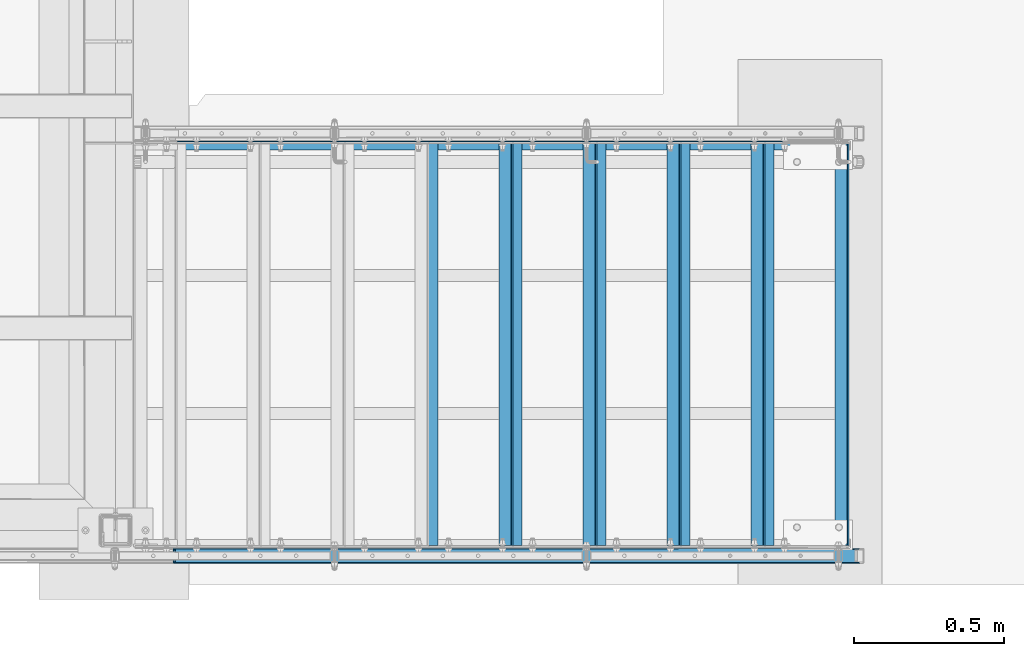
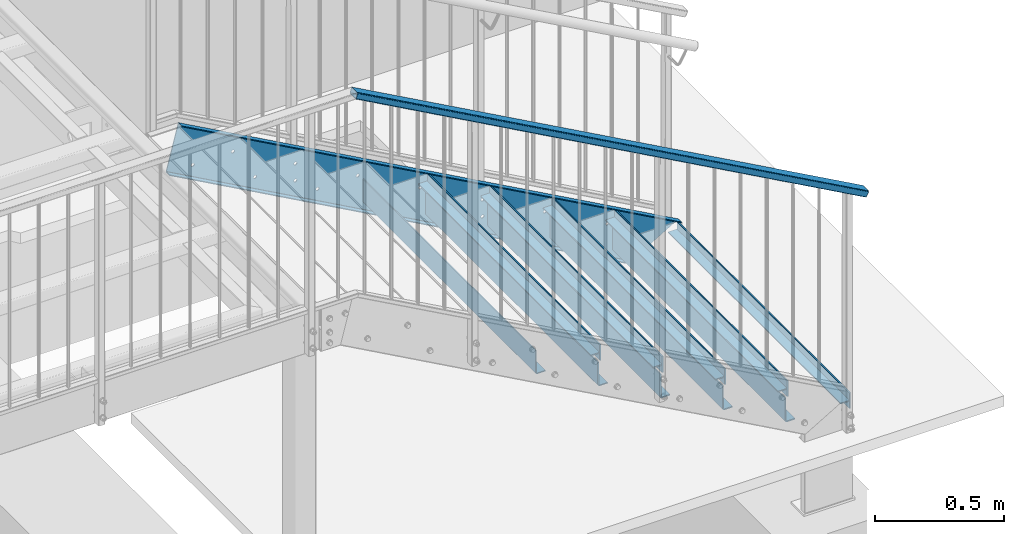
# One storey, part 13 of 116: 15 beams, 2 members, 36 openings.
"""IFC2X3 building model written with IfcOpenShell, lengths in millimetres."""

from ifc_helpers import new_model, entity, si_unit, converted_unit, point, frame, frame_2d, origin, origin_with_axes, origin_2d, origin_2d_with_axis, place, context, project, spatial, circle_curve, line_curve, trimmed, segment, composite_curve, rectangle, hollow_rectangle, circle, outline, extrude, clip, halfspace, material, element, save


model = new_model("IFC2X3")

# Units and contexts
model_context = context("Model", 3, precision=1e-09, world=origin_with_axes())
ifc_project = project(units=[si_unit("LENGTHUNIT", "METRE", prefix="MILLI"), si_unit("AREAUNIT", "SQUARE_METRE"), si_unit("VOLUMEUNIT", "CUBIC_METRE"), converted_unit("PLANEANGLEUNIT", "DEGREE", entity("IfcPlaneAngleMeasure", 0.01745329), si_unit("PLANEANGLEUNIT", "RADIAN"), dimensions=[0, 0, 0, 0, 0, 0, 0])], contexts=[model_context])

# Site, building, storey
site_placement = place(None, origin_with_axes())
site = spatial("IfcSite", under=ifc_project, at=site_placement, Name="Site", CompositionType="ELEMENT")
building_placement = place(site_placement, origin_with_axes())
building = spatial("IfcBuilding", under=site, at=building_placement, Name="Struktur 1", CompositionType="ELEMENT")
storey_placement = place(building_placement, origin_with_axes())
storey = spatial("IfcBuildingStorey", under=building, at=storey_placement, Name="Default Storey", CompositionType="ELEMENT", Elevation=0.0)

# Beam
ifc_material = material(Name="S235JR")
beam_1_placement = place(None, frame((60329.049134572, 9081.358883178, -1130.5), z_axis=(0.0, 1.0, 0.0), x_axis=(-1.0, 0.0, 0.0)))
element("IfcBeam", 1, at=beam_1_placement, inside=storey, material=ifc_material, Name="-", ObjectType="-", context=model_context, shape_type="SweptSolid", body=[
    extrude(rectangle(XDim=6.0, YDim=75.0, at=origin_2d()), origin(), (0.0, 0.0, 1.0), 1340.0),
])

# Member, openings
member_1_placement = place(None, frame((60785.926054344, 10415.358883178, -1459.553447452), z_axis=(0.874893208, 0.0, -0.484315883), x_axis=(0.0, -1.0, 0.0)))
member_1 = element("IfcMember", 2, at=member_1_placement, inside=storey, material=ifc_material, Name="-", ObjectType="-", context=model_context, shape_type="Clipping", body=[
    clip(clip(extrude(outline(composite_curve([segment(trimmed(line_curve((15.0, 108.5), (-1.0, 0.0), 25.0), [point((15.0, 108.5))], [point((-10.0, 108.5))], True, "CARTESIAN"), True, "CONTINUOUS"), segment(trimmed(circle_curve(frame_2d((-9.999999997, 103.499999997), x_axis=(1.0, 0.0)), 5.000000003), [point((-10.0, 108.5))], [point((-15.0, 103.5))], True, "CARTESIAN"), True, "CONTINUOUS"), segment(trimmed(line_curve((-15.0, 103.5), (0.0, -1.0), 207.0), [point((-15.0, 103.5))], [point((-15.0, -103.5))], True, "CARTESIAN"), True, "CONTINUOUS"), segment(trimmed(circle_curve(frame_2d((-9.999999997, -103.499999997), x_axis=(1.0, 0.0)), 5.000000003), [point((-15.0, -103.5))], [point((-10.0, -108.5))], True, "CARTESIAN"), True, "CONTINUOUS"), segment(trimmed(line_curve((-10.0, -108.5), (1.0, 0.0), 25.0), [point((-10.0, -108.5))], [point((15.0, -108.5))], True, "CARTESIAN"), True, "CONTINUOUS"), segment(trimmed(line_curve((15.0, -108.5), (0.0, 1.0), 4.0), [point((15.0, -108.5))], [point((15.0, -104.5))], True, "CARTESIAN"), True, "CONTINUOUS"), segment(trimmed(line_curve((15.0, -104.5), (-1.0, 0.0), 25.0), [point((15.0, -104.5))], [point((-10.0, -104.5))], True, "CARTESIAN"), True, "CONTINUOUS"), segment(trimmed(circle_curve(frame_2d((-9.999999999, -103.499999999), x_axis=(-1.0, 0.0)), 1.000000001), [point((-10.0, -104.5))], [point((-11.0, -103.5))], False, "CARTESIAN"), True, "CONTINUOUS"), segment(trimmed(line_curve((-11.0, -103.5), (0.0, 1.0), 207.0), [point((-11.0, -103.5))], [point((-11.0, 103.5))], True, "CARTESIAN"), True, "CONTINUOUS"), segment(trimmed(circle_curve(frame_2d((-9.999999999, 103.499999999), x_axis=(-1.0, 0.0)), 1.000000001), [point((-11.0, 103.5))], [point((-10.0, 104.5))], False, "CARTESIAN"), True, "CONTINUOUS"), segment(trimmed(line_curve((-10.0, 104.5), (1.0, 0.0), 25.0), [point((-10.0, 104.5))], [point((15.0, 104.5))], True, "CARTESIAN"), True, "CONTINUOUS"), segment(trimmed(line_curve((15.0, 104.5), (0.0, 1.0), 4.0), [point((15.0, 104.5))], [point((15.0, 108.5))], True, "CARTESIAN"), True, "CONTINUOUS")], self_intersect=False)), origin(), (0.0, 0.0, -1.0), 3042.828293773), halfspace(frame((10415.358883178, 14027.067776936, 833.812223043), z_axis=(0.0, -0.250106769, 0.968218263), x_axis=(-1.0, 0.0, 0.0)), True)), halfspace(frame((10415.358883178, 44335.592086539, -26449.557933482), z_axis=(0.0, -0.507781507, -0.861485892), x_axis=(1.0, 0.0, 0.0)), True)),
])
opening_1_placement = place(member_1_placement, frame((-10.5, 59.136882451, -739.789705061), z_axis=(1.0, 0.0, 0.0), x_axis=(0.0, 1.0, 0.0)))
element("IfcOpeningElement", 3, at=opening_1_placement, cuts=member_1, ObjectType="Opening", context=model_context, shape_type="SweptSolid", body=[
    extrude(circle(Radius=7.001, at=frame_2d((-3.390695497, 6.125127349), x_axis=(1.0, 0.0))), origin(), (0.0, 0.0, -1.0), 5.0),
])
opening_2_placement = place(member_1_placement, frame((-10.5, -28.039976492, -582.308927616), z_axis=(1.0, 0.0, 0.0), x_axis=(0.0, 1.0, 0.0)))
element("IfcOpeningElement", 4, at=opening_2_placement, cuts=member_1, ObjectType="Opening", context=model_context, shape_type="SweptSolid", body=[
    extrude(circle(Radius=7.001, at=frame_2d((-3.390695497, 6.125127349), x_axis=(1.0, 0.0))), origin(), (0.0, 0.0, -1.0), 5.0),
])
opening_3_placement = place(member_1_placement, frame((-10.5, 59.136882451, -1379.867825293), z_axis=(1.0, 0.0, 0.0), x_axis=(0.0, 1.0, 0.0)))
element("IfcOpeningElement", 5, at=opening_3_placement, cuts=member_1, ObjectType="Opening", context=model_context, shape_type="SweptSolid", body=[
    extrude(circle(Radius=7.001, at=frame_2d((-3.390695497, 6.125127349), x_axis=(1.0, 0.0))), origin(), (0.0, 0.0, -1.0), 5.0),
])
opening_4_placement = place(member_1_placement, frame((-10.5, -28.039976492, -1542.426107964), z_axis=(1.0, 0.0, 0.0), x_axis=(0.0, 1.0, 0.0)))
element("IfcOpeningElement", 6, at=opening_4_placement, cuts=member_1, ObjectType="Opening", context=model_context, shape_type="SweptSolid", body=[
    extrude(circle(Radius=7.001, at=frame_2d((-3.390695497, 6.125127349), x_axis=(1.0, 0.0))), origin(), (0.0, 0.0, -1.0), 5.0),
])
opening_5_placement = place(member_1_placement, frame((-10.5, -28.039976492, -902.347987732), z_axis=(1.0, 0.0, 0.0), x_axis=(0.0, 1.0, 0.0)))
element("IfcOpeningElement", 7, at=opening_5_placement, cuts=member_1, ObjectType="Opening", context=model_context, shape_type="SweptSolid", body=[
    extrude(circle(Radius=7.001, at=frame_2d((-3.390695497, 6.125127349), x_axis=(1.0, 0.0))), origin(), (0.0, 0.0, -1.0), 5.0),
])
opening_6_placement = place(member_1_placement, frame((-10.5, -28.039976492, -2502.543288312), z_axis=(1.0, 0.0, 0.0), x_axis=(0.0, 1.0, 0.0)))
element("IfcOpeningElement", 8, at=opening_6_placement, cuts=member_1, ObjectType="Opening", context=model_context, shape_type="SweptSolid", body=[
    extrude(circle(Radius=7.001, at=frame_2d((-3.390695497, 6.125127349), x_axis=(1.0, 0.0))), origin(), (0.0, 0.0, -1.0), 5.0),
])
opening_7_placement = place(member_1_placement, frame((-10.5, 59.136882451, -419.750644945), z_axis=(1.0, 0.0, 0.0), x_axis=(0.0, 1.0, 0.0)))
element("IfcOpeningElement", 9, at=opening_7_placement, cuts=member_1, ObjectType="Opening", context=model_context, shape_type="SweptSolid", body=[
    extrude(circle(Radius=7.001, at=frame_2d((-3.390695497, 6.125127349), x_axis=(1.0, 0.0))), origin(), (0.0, 0.0, -1.0), 5.0),
])
opening_8_placement = place(member_1_placement, frame((-10.5, 59.136882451, -1059.828765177), z_axis=(1.0, 0.0, 0.0), x_axis=(0.0, 1.0, 0.0)))
element("IfcOpeningElement", 10, at=opening_8_placement, cuts=member_1, ObjectType="Opening", context=model_context, shape_type="SweptSolid", body=[
    extrude(circle(Radius=7.001, at=frame_2d((-3.390695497, 6.125127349), x_axis=(1.0, 0.0))), origin(), (0.0, 0.0, -1.0), 5.0),
])
opening_9_placement = place(member_1_placement, frame((-10.5, 59.136882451, -2660.024065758), z_axis=(1.0, 0.0, 0.0), x_axis=(0.0, 1.0, 0.0)))
element("IfcOpeningElement", 11, at=opening_9_placement, cuts=member_1, ObjectType="Opening", context=model_context, shape_type="SweptSolid", body=[
    extrude(circle(Radius=7.001, at=frame_2d((-3.390695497, 6.125127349), x_axis=(1.0, 0.0))), origin(), (0.0, 0.0, -1.0), 5.0),
])
opening_10_placement = place(member_1_placement, frame((-10.5, 59.136882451, -2339.985005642), z_axis=(1.0, 0.0, 0.0), x_axis=(0.0, 1.0, 0.0)))
element("IfcOpeningElement", 12, at=opening_10_placement, cuts=member_1, ObjectType="Opening", context=model_context, shape_type="SweptSolid", body=[
    extrude(circle(Radius=7.001, at=frame_2d((-3.390695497, 6.125127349), x_axis=(1.0, 0.0))), origin(), (0.0, 0.0, -1.0), 5.0),
])
opening_11_placement = place(member_1_placement, frame((-10.5, 59.136882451, -2019.945945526), z_axis=(1.0, 0.0, 0.0), x_axis=(0.0, 1.0, 0.0)))
element("IfcOpeningElement", 13, at=opening_11_placement, cuts=member_1, ObjectType="Opening", context=model_context, shape_type="SweptSolid", body=[
    extrude(circle(Radius=7.001, at=frame_2d((-3.390695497, 6.125127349), x_axis=(1.0, 0.0))), origin(), (0.0, 0.0, -1.0), 5.0),
])
opening_12_placement = place(member_1_placement, frame((-10.5, -28.039976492, -1862.46516808), z_axis=(1.0, 0.0, 0.0), x_axis=(0.0, 1.0, 0.0)))
element("IfcOpeningElement", 14, at=opening_12_placement, cuts=member_1, ObjectType="Opening", context=model_context, shape_type="SweptSolid", body=[
    extrude(circle(Radius=7.001, at=frame_2d((-3.390695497, 6.125127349), x_axis=(1.0, 0.0))), origin(), (0.0, 0.0, -1.0), 5.0),
])
opening_13_placement = place(member_1_placement, frame((-10.5, 59.136882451, -1699.90688541), z_axis=(1.0, 0.0, 0.0), x_axis=(0.0, 1.0, 0.0)))
element("IfcOpeningElement", 15, at=opening_13_placement, cuts=member_1, ObjectType="Opening", context=model_context, shape_type="SweptSolid", body=[
    extrude(circle(Radius=7.001, at=frame_2d((-3.390695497, 6.125127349), x_axis=(1.0, 0.0))), origin(), (0.0, 0.0, -1.0), 5.0),
])
opening_14_placement = place(member_1_placement, frame((-15.5, -31.430671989, -2176.379100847), z_axis=(1.0, 0.0, 0.0), x_axis=(0.0, -0.484315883, 0.874893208)))
element("IfcOpeningElement", 16, at=opening_14_placement, cuts=member_1, ObjectType="Opening", context=model_context, shape_type="SweptSolid", body=[
    extrude(circle(Radius=7.001, at=origin_2d_with_axis()), origin(), (0.0, 0.0, 1.0), 5.0),
])
opening_15_placement = place(member_1_placement, frame((-15.5, -31.430671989, -1216.261920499), z_axis=(1.0, 0.0, 0.0), x_axis=(0.0, -0.484315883, 0.874893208)))
element("IfcOpeningElement", 17, at=opening_15_placement, cuts=member_1, ObjectType="Opening", context=model_context, shape_type="SweptSolid", body=[
    extrude(circle(Radius=7.001, at=origin_2d_with_axis()), origin(), (0.0, 0.0, 1.0), 5.0),
])
opening_16_placement = place(member_1_placement, frame((-15.5, 38.560784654, -1177.516649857), z_axis=(1.0, 0.0, 0.0), x_axis=(0.0, -0.484315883, 0.874893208)))
element("IfcOpeningElement", 18, at=opening_16_placement, cuts=member_1, ObjectType="Opening", context=model_context, shape_type="SweptSolid", body=[
    extrude(circle(Radius=7.001, at=origin_2d_with_axis()), origin(), (0.0, 0.0, 1.0), 5.0),
])
opening_17_placement = place(member_1_placement, frame((-15.5, 38.560784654, -2137.633830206), z_axis=(1.0, 0.0, 0.0), x_axis=(0.0, -0.484315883, 0.874893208)))
element("IfcOpeningElement", 19, at=opening_17_placement, cuts=member_1, ObjectType="Opening", context=model_context, shape_type="SweptSolid", body=[
    extrude(circle(Radius=7.001, at=origin_2d_with_axis()), origin(), (0.0, 0.0, 1.0), 5.0),
])

member_2_placement = place(None, frame((60652.935275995, 9047.359883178, -287.778349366), z_axis=(0.874893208, 0.0, -0.484315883), x_axis=(0.484315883, 0.0, 0.874893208)))
member_2 = element("IfcMember", 20, at=member_2_placement, inside=storey, material=ifc_material, Name="-", ObjectType="-", context=model_context, shape_type="Clipping", body=[
    clip(extrude(hollow_rectangle(XDim=30.0, YDim=50.0, WallThickness=3.0, InnerFilletRadius=3.0, OuterFilletRadius=6.0, at=origin_2d()), origin(), (0.0, 0.0, -1.0), 2647.780095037), halfspace(frame((-15051.702041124, 9047.359883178, 1270.435945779), z_axis=(0.250106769, 0.0, 0.968218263), x_axis=(0.0, -1.0, 0.0)), True)),
])
opening_18_placement = place(member_2_placement, frame((-15.499999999, 0.0, -87.433479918), z_axis=(1.0, 0.0, 0.0), x_axis=(0.0, 1.0, 0.0)))
element("IfcOpeningElement", 21, at=opening_18_placement, cuts=member_2, ObjectType="Opening", context=model_context, shape_type="SweptSolid", body=[
    extrude(circle(Radius=5.001, at=frame_2d((0.0, 9.0), x_axis=(1.0, 0.0))), origin(), (0.0, 0.0, 1.0), 4.0),
])
opening_19_placement = place(member_2_placement, frame((-15.499999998, 0.0, -1047.550660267), z_axis=(1.0, 0.0, 0.0), x_axis=(0.0, 1.0, 0.0)))
element("IfcOpeningElement", 22, at=opening_19_placement, cuts=member_2, ObjectType="Opening", context=model_context, shape_type="SweptSolid", body=[
    extrude(circle(Radius=5.001, at=frame_2d((0.0, 9.0), x_axis=(1.0, 0.0))), origin(), (0.0, 0.0, 1.0), 4.0),
])
opening_20_placement = place(member_2_placement, frame((-15.499999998, 0.0, -2007.668394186), z_axis=(1.0, 0.0, 0.0), x_axis=(0.0, 1.0, 0.0)))
element("IfcOpeningElement", 23, at=opening_20_placement, cuts=member_2, ObjectType="Opening", context=model_context, shape_type="SweptSolid", body=[
    extrude(circle(Radius=5.001, at=frame_2d((0.0, 9.0), x_axis=(1.0, 0.0))), origin(), (0.0, 0.0, 1.0), 4.0),
])
opening_21_placement = place(member_2_placement, frame((-3.141238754, 0.0, -370.642873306), z_axis=(0.874893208, 0.0, -0.484315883), x_axis=(0.0, 1.0, 0.0)))
element("IfcOpeningElement", 24, at=opening_21_placement, cuts=member_2, ObjectType="Opening", context=model_context, shape_type="SweptSolid", body=[
    extrude(outline(circle_curve(frame_2d((0.0, 6.051), x_axis=(1.0, 0.0)), 6.051)), origin(), (0.0, 0.0, -1.0), 289.983380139),
])
opening_22_placement = place(member_2_placement, frame((-3.141238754, 0.0, -236.422410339), z_axis=(0.874893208, 0.0, -0.484315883), x_axis=(0.0, 1.0, 0.0)))
element("IfcOpeningElement", 25, at=opening_22_placement, cuts=member_2, ObjectType="Opening", context=model_context, shape_type="SweptSolid", body=[
    extrude(outline(circle_curve(frame_2d((0.0, 6.051), x_axis=(1.0, 0.0)), 6.051)), origin(), (0.0, 0.0, -1.0), 224.978278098),
])
opening_23_placement = place(member_2_placement, frame((-3.141238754, 0.0, -504.863336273), z_axis=(0.874893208, 0.0, -0.484315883), x_axis=(0.0, 1.0, 0.0)))
element("IfcOpeningElement", 26, at=opening_23_placement, cuts=member_2, ObjectType="Opening", context=model_context, shape_type="SweptSolid", body=[
    extrude(outline(circle_curve(frame_2d((0.0, 6.051), x_axis=(1.0, 0.0)), 6.051)), origin(), (0.0, 0.0, -1.0), 354.98848218),
])
opening_24_placement = place(member_2_placement, frame((-3.141238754, 0.0, -639.08379924), z_axis=(0.874893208, 0.0, -0.484315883), x_axis=(0.0, 1.0, 0.0)))
element("IfcOpeningElement", 27, at=opening_24_placement, cuts=member_2, ObjectType="Opening", context=model_context, shape_type="SweptSolid", body=[
    extrude(outline(circle_curve(frame_2d((0.0, 6.051), x_axis=(1.0, 0.0)), 6.051)), origin(), (0.0, 0.0, -1.0), 419.993584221),
])
opening_25_placement = place(member_2_placement, frame((-3.141238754, 0.0, -773.304262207), z_axis=(0.874893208, 0.0, -0.484315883), x_axis=(0.0, 1.0, 0.0)))
element("IfcOpeningElement", 28, at=opening_25_placement, cuts=member_2, ObjectType="Opening", context=model_context, shape_type="SweptSolid", body=[
    extrude(outline(circle_curve(frame_2d((0.0, 6.051), x_axis=(1.0, 0.0)), 6.051)), origin(), (0.0, 0.0, -1.0), 484.998686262),
])
opening_26_placement = place(member_2_placement, frame((-3.141238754, 0.0, -907.524725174), z_axis=(0.874893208, 0.0, -0.484315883), x_axis=(0.0, 1.0, 0.0)))
element("IfcOpeningElement", 29, at=opening_26_placement, cuts=member_2, ObjectType="Opening", context=model_context, shape_type="SweptSolid", body=[
    extrude(outline(circle_curve(frame_2d((0.0, 6.051), x_axis=(1.0, 0.0)), 6.051)), origin(), (0.0, 0.0, -1.0), 550.003788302),
])
opening_27_placement = place(member_2_placement, frame((-3.141238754, 0.0, -1330.760053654), z_axis=(0.874893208, 0.0, -0.484315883), x_axis=(0.0, 1.0, 0.0)))
element("IfcOpeningElement", 30, at=opening_27_placement, cuts=member_2, ObjectType="Opening", context=model_context, shape_type="SweptSolid", body=[
    extrude(outline(circle_curve(frame_2d((0.0, 6.051), x_axis=(1.0, 0.0)), 6.051)), origin(), (0.0, 0.0, -1.0), 754.983380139),
])
opening_28_placement = place(member_2_placement, frame((-3.141238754, 0.0, -1196.539590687), z_axis=(0.874893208, 0.0, -0.484315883), x_axis=(0.0, 1.0, 0.0)))
element("IfcOpeningElement", 31, at=opening_28_placement, cuts=member_2, ObjectType="Opening", context=model_context, shape_type="SweptSolid", body=[
    extrude(outline(circle_curve(frame_2d((0.0, 6.051), x_axis=(1.0, 0.0)), 6.051)), origin(), (0.0, 0.0, -1.0), 689.978278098),
])
opening_29_placement = place(member_2_placement, frame((-3.141238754, 0.0, -1464.980516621), z_axis=(0.874893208, 0.0, -0.484315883), x_axis=(0.0, 1.0, 0.0)))
element("IfcOpeningElement", 32, at=opening_29_placement, cuts=member_2, ObjectType="Opening", context=model_context, shape_type="SweptSolid", body=[
    extrude(outline(circle_curve(frame_2d((0.0, 6.051), x_axis=(1.0, 0.0)), 6.051)), origin(), (0.0, 0.0, -1.0), 819.98848218),
])
opening_30_placement = place(member_2_placement, frame((-3.141238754, 0.0, -1599.200979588), z_axis=(0.874893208, 0.0, -0.484315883), x_axis=(0.0, 1.0, 0.0)))
element("IfcOpeningElement", 33, at=opening_30_placement, cuts=member_2, ObjectType="Opening", context=model_context, shape_type="SweptSolid", body=[
    extrude(outline(circle_curve(frame_2d((0.0, 6.051), x_axis=(1.0, 0.0)), 6.051)), origin(), (0.0, 0.0, -1.0), 884.993584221),
])
opening_31_placement = place(member_2_placement, frame((-3.141238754, 0.0, -1733.421442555), z_axis=(0.874893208, 0.0, -0.484315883), x_axis=(0.0, 1.0, 0.0)))
element("IfcOpeningElement", 34, at=opening_31_placement, cuts=member_2, ObjectType="Opening", context=model_context, shape_type="SweptSolid", body=[
    extrude(outline(circle_curve(frame_2d((0.0, 6.051), x_axis=(1.0, 0.0)), 6.051)), origin(), (0.0, 0.0, -1.0), 949.998686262),
])
opening_32_placement = place(member_2_placement, frame((-3.141238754, 0.0, -1867.641905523), z_axis=(0.874893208, 0.0, -0.484315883), x_axis=(0.0, 1.0, 0.0)))
element("IfcOpeningElement", 35, at=opening_32_placement, cuts=member_2, ObjectType="Opening", context=model_context, shape_type="SweptSolid", body=[
    extrude(outline(circle_curve(frame_2d((0.0, 6.051), x_axis=(1.0, 0.0)), 6.051)), origin(), (0.0, 0.0, -1.0), 1015.003788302),
])
opening_33_placement = place(member_2_placement, frame((-3.141238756, 0.0, -2158.452908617), z_axis=(0.874893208, 0.0, -0.484315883), x_axis=(0.0, 1.0, 0.0)))
element("IfcOpeningElement", 36, at=opening_33_placement, cuts=member_2, ObjectType="Opening", context=model_context, shape_type="SweptSolid", body=[
    extrude(outline(circle_curve(frame_2d((0.0, 6.051), x_axis=(1.0, 0.0)), 6.051)), origin(), (0.0, 0.0, -1.0), 1155.848176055),
])
opening_34_placement = place(member_2_placement, frame((-3.141238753, 0.0, -2294.469509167), z_axis=(0.874893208, 0.0, -0.484315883), x_axis=(0.0, 1.0, 0.0)))
element("IfcOpeningElement", 37, at=opening_34_placement, cuts=member_2, ObjectType="Opening", context=model_context, shape_type="SweptSolid", body=[
    extrude(outline(circle_curve(frame_2d((0.0, 6.051), x_axis=(1.0, 0.0)), 6.051)), origin(), (0.0, 0.0, -1.0), 1221.723176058),
])
opening_35_placement = place(member_2_placement, frame((-3.141238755, 0.0, -2430.486109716), z_axis=(0.874893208, 0.0, -0.484315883), x_axis=(0.0, 1.0, 0.0)))
element("IfcOpeningElement", 38, at=opening_35_placement, cuts=member_2, ObjectType="Opening", context=model_context, shape_type="SweptSolid", body=[
    extrude(outline(circle_curve(frame_2d((0.0, 6.051), x_axis=(1.0, 0.0)), 6.051)), origin(), (0.0, 0.0, -1.0), 1287.598176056),
])
opening_36_placement = place(member_2_placement, frame((-3.141238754, 0.0, -2566.503263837), z_axis=(0.874893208, 0.0, -0.484315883), x_axis=(0.0, 1.0, 0.0)))
element("IfcOpeningElement", 39, at=opening_36_placement, cuts=member_2, ObjectType="Opening", context=model_context, shape_type="SweptSolid", body=[
    extrude(outline(circle_curve(frame_2d((0.0, 6.051), x_axis=(1.0, 0.0)), 6.051)), origin(), (0.0, 0.0, -1.0), 1353.473444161),
])

# Beams
beam_2_placement = place(None, frame((60306.049134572, 9081.358883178, -1130.5), z_axis=(0.0, 1.0, 0.0), x_axis=(0.0, 0.0, 1.0)))
element("IfcBeam", 40, at=beam_2_placement, inside=storey, material=ifc_material, Name="-", ObjectType="-", context=model_context, shape_type="SweptSolid", body=[
    extrude(rectangle(XDim=5.0, YDim=40.0, at=origin_2d()), origin(), (0.0, 0.0, 1.0), 1340.0),
])
beam_3_placement = place(None, frame((60037.049134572, 9081.358883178, -1133.0), z_axis=(0.0, -1.0, 0.0), x_axis=(1.0, 0.0, 0.0)))
element("IfcBeam", 41, at=beam_3_placement, inside=storey, material=ifc_material, Name="-", ObjectType="-", context=model_context, shape_type="SweptSolid", body=[
    extrude(outline(composite_curve([segment(trimmed(line_curve((0.0, 115.0), (0.0, -1.0), 105.0), [point((0.0, 115.0))], [point((0.0, 10.0))], True, "CARTESIAN"), True, "CONTINUOUS"), segment(trimmed(circle_curve(frame_2d((10.0, 10.0), x_axis=(1.0, 0.0)), 10.0), [point((0.0, 10.0))], [point((10.0, 0.0))], True, "CARTESIAN"), True, "CONTINUOUS"), segment(trimmed(line_curve((10.0, 0.0), (1.0, 0.0), 35.0), [point((10.0, 0.0))], [point((45.0, 0.0))], True, "CARTESIAN"), True, "CONTINUOUS"), segment(trimmed(line_curve((45.0, 0.0), (0.0, 1.0), 5.0), [point((45.0, 0.0))], [point((45.0, 5.0))], True, "CARTESIAN"), True, "CONTINUOUS"), segment(trimmed(line_curve((45.0, 5.0), (-1.0, 0.0), 35.0), [point((45.0, 5.0))], [point((10.0, 5.0))], True, "CARTESIAN"), True, "CONTINUOUS"), segment(trimmed(circle_curve(frame_2d((10.0, 10.0), x_axis=(-1.0, 0.0)), 5.0), [point((10.0, 5.0))], [point((5.0, 10.0))], False, "CARTESIAN"), True, "CONTINUOUS"), segment(trimmed(line_curve((5.0, 10.0), (0.0, 1.0), 105.0), [point((5.0, 10.0))], [point((5.0, 115.0))], True, "CARTESIAN"), True, "CONTINUOUS"), segment(trimmed(line_curve((5.0, 115.0), (-1.0, 0.0), 5.0), [point((5.0, 115.0))], [point((0.0, 115.0))], True, "CARTESIAN"), True, "CONTINUOUS")], self_intersect=False)), origin(), (0.0, 0.0, -1.0), 1340.0),
])
beam_4_placement = place(None, frame((60586.049134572, 9081.358883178, -1285.5), z_axis=(0.0, 1.0, 0.0), x_axis=(0.0, 0.0, 1.0)))
element("IfcBeam", 42, at=beam_4_placement, inside=storey, material=ifc_material, Name="-", ObjectType="-", context=model_context, shape_type="SweptSolid", body=[
    extrude(rectangle(XDim=5.0, YDim=40.0, at=origin_2d()), origin(), (0.0, 0.0, 1.0), 1340.0),
])
beam_5_placement = place(None, frame((60609.049134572, 9081.358883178, -1285.5), z_axis=(0.0, 1.0, 0.0), x_axis=(-1.0, 0.0, 0.0)))
element("IfcBeam", 43, at=beam_5_placement, inside=storey, material=ifc_material, Name="-", ObjectType="-", context=model_context, shape_type="SweptSolid", body=[
    extrude(rectangle(XDim=6.0, YDim=75.0, at=origin_2d()), origin(), (0.0, 0.0, 1.0), 1340.0),
])
beam_6_placement = place(None, frame((60317.049134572, 9081.358883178, -1288.0), z_axis=(0.0, -1.0, 0.0), x_axis=(1.0, 0.0, 0.0)))
element("IfcBeam", 44, at=beam_6_placement, inside=storey, material=ifc_material, Name="-", ObjectType="-", context=model_context, shape_type="SweptSolid", body=[
    extrude(outline(composite_curve([segment(trimmed(line_curve((0.0, 115.0), (0.0, -1.0), 105.0), [point((0.0, 115.0))], [point((0.0, 10.0))], True, "CARTESIAN"), True, "CONTINUOUS"), segment(trimmed(circle_curve(frame_2d((10.0, 10.0), x_axis=(1.0, 0.0)), 10.0), [point((0.0, 10.0))], [point((10.0, 0.0))], True, "CARTESIAN"), True, "CONTINUOUS"), segment(trimmed(line_curve((10.0, 0.0), (1.0, 0.0), 35.0), [point((10.0, 0.0))], [point((45.0, 0.0))], True, "CARTESIAN"), True, "CONTINUOUS"), segment(trimmed(line_curve((45.0, 0.0), (0.0, 1.0), 5.0), [point((45.0, 0.0))], [point((45.0, 5.0))], True, "CARTESIAN"), True, "CONTINUOUS"), segment(trimmed(line_curve((45.0, 5.0), (-1.0, 0.0), 35.0), [point((45.0, 5.0))], [point((10.0, 5.0))], True, "CARTESIAN"), True, "CONTINUOUS"), segment(trimmed(circle_curve(frame_2d((10.0, 10.0), x_axis=(-1.0, 0.0)), 5.0), [point((10.0, 5.0))], [point((5.0, 10.0))], False, "CARTESIAN"), True, "CONTINUOUS"), segment(trimmed(line_curve((5.0, 10.0), (0.0, 1.0), 105.0), [point((5.0, 10.0))], [point((5.0, 115.0))], True, "CARTESIAN"), True, "CONTINUOUS"), segment(trimmed(line_curve((5.0, 115.0), (-1.0, 0.0), 5.0), [point((5.0, 115.0))], [point((0.0, 115.0))], True, "CARTESIAN"), True, "CONTINUOUS")], self_intersect=False)), origin(), (0.0, 0.0, -1.0), 1340.0),
])
beam_7_placement = place(None, frame((60026.049134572, 9081.358883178, -975.5), z_axis=(0.0, 1.0, 0.0), x_axis=(0.0, 0.0, 1.0)))
element("IfcBeam", 45, at=beam_7_placement, inside=storey, material=ifc_material, Name="-", ObjectType="-", context=model_context, shape_type="SweptSolid", body=[
    extrude(rectangle(XDim=5.0, YDim=40.0, at=origin_2d()), origin(), (0.0, 0.0, 1.0), 1340.0),
])
beam_8_placement = place(None, frame((60049.049134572, 9081.358883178, -975.5), z_axis=(0.0, 1.0, 0.0), x_axis=(-1.0, 0.0, 0.0)))
element("IfcBeam", 46, at=beam_8_placement, inside=storey, material=ifc_material, Name="-", ObjectType="-", context=model_context, shape_type="SweptSolid", body=[
    extrude(rectangle(XDim=6.0, YDim=75.0, at=origin_2d()), origin(), (0.0, 0.0, 1.0), 1340.0),
])
beam_9_placement = place(None, frame((59757.049134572, 9081.358883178, -978.0), z_axis=(0.0, -1.0, 0.0), x_axis=(1.0, 0.0, 0.0)))
element("IfcBeam", 47, at=beam_9_placement, inside=storey, material=ifc_material, Name="-", ObjectType="-", context=model_context, shape_type="SweptSolid", body=[
    extrude(outline(composite_curve([segment(trimmed(line_curve((0.0, 115.0), (0.0, -1.0), 105.0), [point((0.0, 115.0))], [point((0.0, 10.0))], True, "CARTESIAN"), True, "CONTINUOUS"), segment(trimmed(circle_curve(frame_2d((10.0, 10.0), x_axis=(1.0, 0.0)), 10.0), [point((0.0, 10.0))], [point((10.0, 0.0))], True, "CARTESIAN"), True, "CONTINUOUS"), segment(trimmed(line_curve((10.0, 0.0), (1.0, 0.0), 35.0), [point((10.0, 0.0))], [point((45.0, 0.0))], True, "CARTESIAN"), True, "CONTINUOUS"), segment(trimmed(line_curve((45.0, 0.0), (0.0, 1.0), 5.0), [point((45.0, 0.0))], [point((45.0, 5.0))], True, "CARTESIAN"), True, "CONTINUOUS"), segment(trimmed(line_curve((45.0, 5.0), (-1.0, 0.0), 35.0), [point((45.0, 5.0))], [point((10.0, 5.0))], True, "CARTESIAN"), True, "CONTINUOUS"), segment(trimmed(circle_curve(frame_2d((10.0, 10.0), x_axis=(-1.0, 0.0)), 5.0), [point((10.0, 5.0))], [point((5.0, 10.0))], False, "CARTESIAN"), True, "CONTINUOUS"), segment(trimmed(line_curve((5.0, 10.0), (0.0, 1.0), 105.0), [point((5.0, 10.0))], [point((5.0, 115.0))], True, "CARTESIAN"), True, "CONTINUOUS"), segment(trimmed(line_curve((5.0, 115.0), (-1.0, 0.0), 5.0), [point((5.0, 115.0))], [point((0.0, 115.0))], True, "CARTESIAN"), True, "CONTINUOUS")], self_intersect=False)), origin(), (0.0, 0.0, -1.0), 1340.0),
])
beam_10_placement = place(None, frame((59746.049134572, 9081.358883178, -820.5), z_axis=(0.0, 1.0, 0.0), x_axis=(0.0, 0.0, 1.0)))
element("IfcBeam", 48, at=beam_10_placement, inside=storey, material=ifc_material, Name="-", ObjectType="-", context=model_context, shape_type="SweptSolid", body=[
    extrude(rectangle(XDim=5.0, YDim=40.0, at=origin_2d()), origin(), (0.0, 0.0, 1.0), 1340.0),
])
beam_11_placement = place(None, frame((59769.049134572, 9081.358883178, -820.5), z_axis=(0.0, 1.0, 0.0), x_axis=(-1.0, 0.0, 0.0)))
element("IfcBeam", 49, at=beam_11_placement, inside=storey, material=ifc_material, Name="-", ObjectType="-", context=model_context, shape_type="SweptSolid", body=[
    extrude(rectangle(XDim=6.0, YDim=75.0, at=origin_2d()), origin(), (0.0, 0.0, 1.0), 1340.0),
])
beam_12_placement = place(None, frame((59477.049134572, 9081.358883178, -823.0), z_axis=(0.0, -1.0, 0.0), x_axis=(1.0, 0.0, 0.0)))
element("IfcBeam", 50, at=beam_12_placement, inside=storey, material=ifc_material, Name="-", ObjectType="-", context=model_context, shape_type="SweptSolid", body=[
    extrude(outline(composite_curve([segment(trimmed(line_curve((0.0, 115.0), (0.0, -1.0), 105.0), [point((0.0, 115.0))], [point((0.0, 10.0))], True, "CARTESIAN"), True, "CONTINUOUS"), segment(trimmed(circle_curve(frame_2d((10.0, 10.0), x_axis=(1.0, 0.0)), 10.0), [point((0.0, 10.0))], [point((10.0, 0.0))], True, "CARTESIAN"), True, "CONTINUOUS"), segment(trimmed(line_curve((10.0, 0.0), (1.0, 0.0), 35.0), [point((10.0, 0.0))], [point((45.0, 0.0))], True, "CARTESIAN"), True, "CONTINUOUS"), segment(trimmed(line_curve((45.0, 0.0), (0.0, 1.0), 5.0), [point((45.0, 0.0))], [point((45.0, 5.0))], True, "CARTESIAN"), True, "CONTINUOUS"), segment(trimmed(line_curve((45.0, 5.0), (-1.0, 0.0), 35.0), [point((45.0, 5.0))], [point((10.0, 5.0))], True, "CARTESIAN"), True, "CONTINUOUS"), segment(trimmed(circle_curve(frame_2d((10.0, 10.0), x_axis=(-1.0, 0.0)), 5.0), [point((10.0, 5.0))], [point((5.0, 10.0))], False, "CARTESIAN"), True, "CONTINUOUS"), segment(trimmed(line_curve((5.0, 10.0), (0.0, 1.0), 105.0), [point((5.0, 10.0))], [point((5.0, 115.0))], True, "CARTESIAN"), True, "CONTINUOUS"), segment(trimmed(line_curve((5.0, 115.0), (-1.0, 0.0), 5.0), [point((5.0, 115.0))], [point((0.0, 115.0))], True, "CARTESIAN"), True, "CONTINUOUS")], self_intersect=False)), origin(), (0.0, 0.0, -1.0), 1340.0),
])
beam_13_placement = place(None, frame((59466.049134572, 9081.358883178, -665.5), z_axis=(0.0, 1.0, 0.0), x_axis=(0.0, 0.0, 1.0)))
element("IfcBeam", 51, at=beam_13_placement, inside=storey, material=ifc_material, Name="-", ObjectType="-", context=model_context, shape_type="SweptSolid", body=[
    extrude(rectangle(XDim=5.0, YDim=40.0, at=origin_2d()), origin(), (0.0, 0.0, 1.0), 1340.0),
])
beam_14_placement = place(None, frame((59489.049134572, 9081.358883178, -665.5), z_axis=(0.0, 1.0, 0.0), x_axis=(-1.0, 0.0, 0.0)))
element("IfcBeam", 52, at=beam_14_placement, inside=storey, material=ifc_material, Name="-", ObjectType="-", context=model_context, shape_type="SweptSolid", body=[
    extrude(rectangle(XDim=6.0, YDim=75.0, at=origin_2d()), origin(), (0.0, 0.0, 1.0), 1340.0),
])
beam_15_placement = place(None, frame((59197.049134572, 9081.358883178, -668.0), z_axis=(0.0, -1.0, 0.0), x_axis=(1.0, 0.0, 0.0)))
element("IfcBeam", 53, at=beam_15_placement, inside=storey, material=ifc_material, Name="-", ObjectType="-", context=model_context, shape_type="SweptSolid", body=[
    extrude(outline(composite_curve([segment(trimmed(line_curve((0.0, 115.0), (0.0, -1.0), 105.0), [point((0.0, 115.0))], [point((0.0, 10.0))], True, "CARTESIAN"), True, "CONTINUOUS"), segment(trimmed(circle_curve(frame_2d((10.0, 10.0), x_axis=(1.0, 0.0)), 10.0), [point((0.0, 10.0))], [point((10.0, 0.0))], True, "CARTESIAN"), True, "CONTINUOUS"), segment(trimmed(line_curve((10.0, 0.0), (1.0, 0.0), 35.0), [point((10.0, 0.0))], [point((45.0, 0.0))], True, "CARTESIAN"), True, "CONTINUOUS"), segment(trimmed(line_curve((45.0, 0.0), (0.0, 1.0), 5.0), [point((45.0, 0.0))], [point((45.0, 5.0))], True, "CARTESIAN"), True, "CONTINUOUS"), segment(trimmed(line_curve((45.0, 5.0), (-1.0, 0.0), 35.0), [point((45.0, 5.0))], [point((10.0, 5.0))], True, "CARTESIAN"), True, "CONTINUOUS"), segment(trimmed(circle_curve(frame_2d((10.0, 10.0), x_axis=(-1.0, 0.0)), 5.0), [point((10.0, 5.0))], [point((5.0, 10.0))], False, "CARTESIAN"), True, "CONTINUOUS"), segment(trimmed(line_curve((5.0, 10.0), (0.0, 1.0), 105.0), [point((5.0, 10.0))], [point((5.0, 115.0))], True, "CARTESIAN"), True, "CONTINUOUS"), segment(trimmed(line_curve((5.0, 115.0), (-1.0, 0.0), 5.0), [point((5.0, 115.0))], [point((0.0, 115.0))], True, "CARTESIAN"), True, "CONTINUOUS")], self_intersect=False)), origin(), (0.0, 0.0, -1.0), 1340.0),
])

save(model, "model.ifc")
